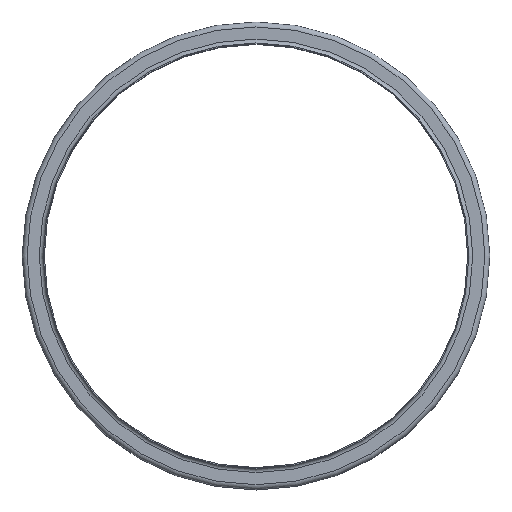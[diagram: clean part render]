
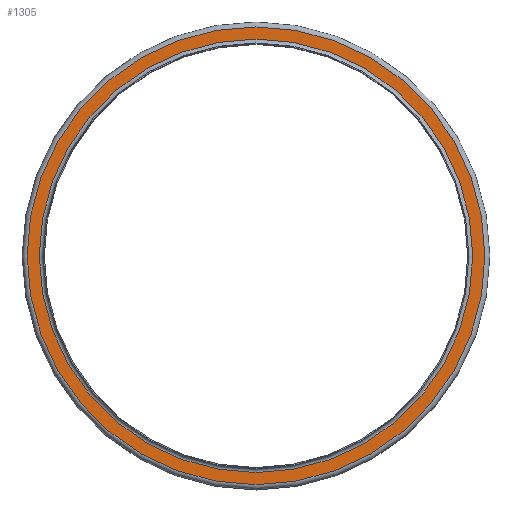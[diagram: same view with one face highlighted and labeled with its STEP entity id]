
A CAD part, top view. The second image highlights one B-rep face of the part: STEP entity #1305.
In plain terms, the highlighted planar face has unit normal (0, 0, 1).
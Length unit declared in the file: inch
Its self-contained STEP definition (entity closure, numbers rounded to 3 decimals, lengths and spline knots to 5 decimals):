
#130=FACE_BOUND('',#384,.T.);
#229=FACE_OUTER_BOUND('',#383,.T.);
#383=EDGE_LOOP('',(#1108));
#384=EDGE_LOOP('',(#1109));
#545=CIRCLE('',#1574,12.28);
#546=CIRCLE('',#1576,12.97);
#658=VERTEX_POINT('',#2470);
#659=VERTEX_POINT('',#2474);
#811=EDGE_CURVE('',#658,#658,#545,.T.);
#812=EDGE_CURVE('',#659,#659,#546,.T.);
#1108=ORIENTED_EDGE('',*,*,#812,.F.);
#1109=ORIENTED_EDGE('',*,*,#811,.T.);
#1206=PLANE('',#1575);
#1305=ADVANCED_FACE('',(#229,#130),#1206,.T.);
#1574=AXIS2_PLACEMENT_3D('',#2472,#2070,#2071);
#1575=AXIS2_PLACEMENT_3D('',#2473,#2072,#2073);
#1576=AXIS2_PLACEMENT_3D('',#2475,#2074,#2075);
#2070=DIRECTION('center_axis',(0.,0.,-1.));
#2071=DIRECTION('ref_axis',(1.,0.,0.));
#2072=DIRECTION('center_axis',(0.,0.,1.));
#2073=DIRECTION('ref_axis',(1.,0.,0.));
#2074=DIRECTION('center_axis',(0.,0.,-1.));
#2075=DIRECTION('ref_axis',(1.,0.,0.));
#2470=CARTESIAN_POINT('',(12.28,0.,-0.22));
#2472=CARTESIAN_POINT('Origin',(0.,0.,-0.22));
#2473=CARTESIAN_POINT('Origin',(0.,12.97,-0.22));
#2474=CARTESIAN_POINT('',(12.97,0.,-0.22));
#2475=CARTESIAN_POINT('Origin',(0.,0.,-0.22));
